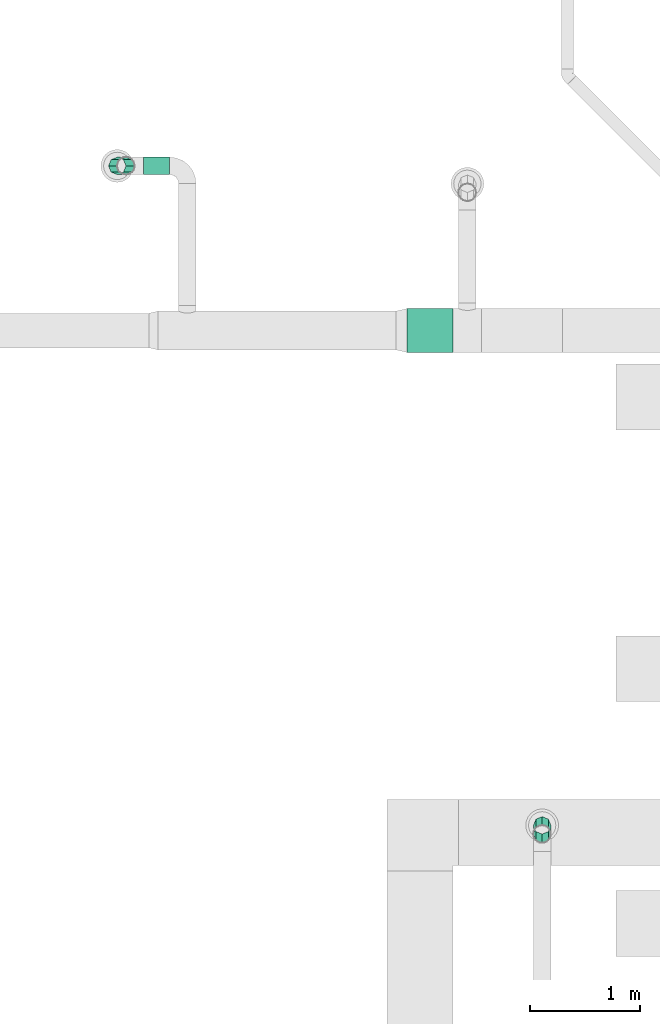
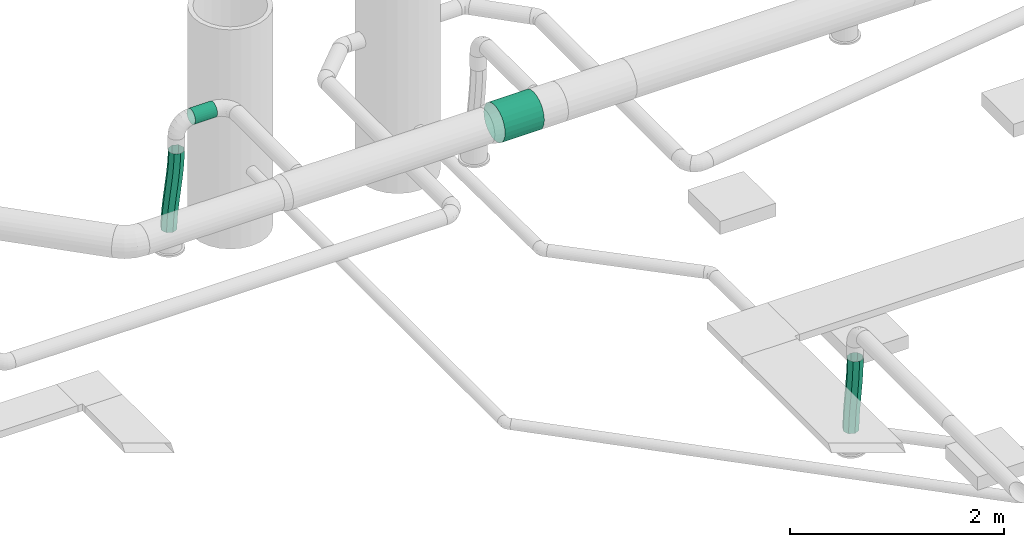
# One storey, part 305 of 374: 4 flow segments.
"""IFC2X3 building model written with IfcOpenShell, lengths in metres."""

from ifc_helpers import new_model, si_unit, direction, origin, place, context, subcontext, project, spatial, open_shell, surface_model, source, transform, mapped, element, save


model = new_model("IFC2X3")

# Units and contexts
model_context = context("Model", 3, precision=1e-05, world=origin(), true_north=direction((-0.4480736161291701, 0.8939966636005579)))
body_context = subcontext(model_context, "Body", "Model", "MODEL_VIEW")
ifc_project = project(units=[si_unit("LENGTHUNIT", "METRE"), si_unit("AREAUNIT", "SQUARE_METRE"), si_unit("VOLUMEUNIT", "CUBIC_METRE"), si_unit("PLANEANGLEUNIT", "RADIAN"), si_unit("THERMODYNAMICTEMPERATUREUNIT", "KELVIN"), si_unit("MASSUNIT", "GRAM", prefix="KILO"), si_unit("TIMEUNIT", "SECOND")], contexts=[model_context])

# Site, building, storey
site_placement = place(None, origin())
site = spatial("IfcSite", under=ifc_project, at=site_placement, Name="Site 1", CompositionType="ELEMENT")
building_placement = place(site_placement, origin())
building = spatial("IfcBuilding", under=site, at=building_placement, Name="Undefined", CompositionType="ELEMENT")
storey_placement = place(building_placement, origin())
storey = spatial("IfcBuildingStorey", under=building, at=storey_placement, Name="Rez de chauss\x8ee", CompositionType="ELEMENT", Elevation=0.0)

# Flow segments
shared_shape_1 = source(origin(), body_context, "Body", "SurfaceModel", [
    surface_model("IfcFaceBasedSurfaceModel", [(0.0942570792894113, 3.552713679e-15, 0.0), (0.05356602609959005, 0.045752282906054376, -3.552713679e-15), (0.0, 0.0, 0.0), (0.038940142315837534, -0.04725143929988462, -1.1507668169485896e-06), (-0.055412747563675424, -0.044041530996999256, 0.0010358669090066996), (-0.017993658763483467, -0.09250640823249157, 0.0010617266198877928), (-0.11243304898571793, -0.08679100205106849, 0.0029113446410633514), (-0.07622094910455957, -0.13616420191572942, 0.002975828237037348), (-0.17075714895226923, -0.12862219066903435, 0.005426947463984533), (-0.13541835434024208, -0.17862411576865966, 0.005528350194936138), (-0.23007333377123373, -0.16991459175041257, 0.008379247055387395), (-0.19526250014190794, -0.22028544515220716, 0.008506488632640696), (-0.2900642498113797, -0.2110550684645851, 0.011560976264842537), (-0.25543001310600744, -0.2615474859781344, 0.01169743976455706), (-0.3504083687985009, -0.2524386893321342, 0.014761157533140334), (-0.31559752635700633, -0.3028095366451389, 0.014888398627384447), (-0.41078047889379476, -0.29446897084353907, 0.017765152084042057), (-0.37544167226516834, -0.3444708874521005, 0.017866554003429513), (-0.4708511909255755, -0.33755763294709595, 0.020354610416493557), (-0.43463908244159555, -0.38693082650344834, 0.02041909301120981), (-0.5302854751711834, -0.3821237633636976, 0.02230734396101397), (-0.4928663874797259, -0.4305886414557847, 0.022333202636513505), (-0.588740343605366, -0.42859216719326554, 0.02339722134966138), (-0.5498002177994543, -0.47584362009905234, 0.02339606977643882), (-0.6458082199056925, -0.4773427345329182, 0.0233948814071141), (-0.6051172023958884, -0.5230950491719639, 0.02339488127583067), (0.02506154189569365, 0.0783427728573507, -0.04329419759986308), (-0.0277792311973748, 0.033211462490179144, -0.04329372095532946), (-0.08256193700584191, -0.010327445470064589, -0.04226904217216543), (-0.13908228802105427, -0.05270067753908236, -0.040409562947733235), (-0.19704465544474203, -0.09427144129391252, -0.03790925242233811), (-0.2561421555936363, -0.13541102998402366, -0.034967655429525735), (-0.3160599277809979, -0.17650115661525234, -0.031789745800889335), (-0.37647720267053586, -0.21793513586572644, -0.028585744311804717), (-0.43706800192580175, -0.26011823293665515, -0.025571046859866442), (-0.4975004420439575, -0.30346731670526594, -0.02296629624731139), (-0.5574346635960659, -0.34840967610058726, -0.020997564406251), (-0.6165195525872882, -0.3953806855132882, -0.01989649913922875), (-0.67431265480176, -0.44475220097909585, -0.019899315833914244), (0.02544116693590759, 0.07868040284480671, -0.1045214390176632), (-0.028124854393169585, 0.03292812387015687, -0.10452143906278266), (-0.08353760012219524, -0.011113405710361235, -0.10348557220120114), (-0.14055790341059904, -0.053862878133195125, -0.10161009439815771), (-0.1988820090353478, -0.09569407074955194, -0.09909449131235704), (-0.25819820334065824, -0.1369864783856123, -0.09614219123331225), (-0.31818913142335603, -0.17812696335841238, -0.09296046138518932), (-0.3785332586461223, -0.21951058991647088, -0.08976027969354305), (-0.43890536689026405, -0.2615408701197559, -0.08675628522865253), (-0.49897606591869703, -0.30462952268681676, -0.08416682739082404), (-0.5584103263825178, -0.34919563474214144, -0.08221409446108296), (-0.6168651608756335, -0.3956640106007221, -0.08112421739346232), (-0.673932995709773, -0.4444145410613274, -0.08112655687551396), (0.054482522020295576, 0.04656739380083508, -0.14781563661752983), (-0.0008344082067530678, -0.000684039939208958, -0.14781678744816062), (-0.05776820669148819, -0.04593900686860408, -0.14675391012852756), (-0.11599549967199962, -0.08959680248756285, -0.14483980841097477), (-0.1751929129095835, -0.13205672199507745, -0.14228728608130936), (-0.23503707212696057, -0.17371806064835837, -0.1393091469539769), (-0.29520460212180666, -0.21498011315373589, -0.13611819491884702), (-0.3553721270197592, -0.25624217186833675, -0.13292723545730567), (-0.41521627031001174, -0.29790352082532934, -0.12994908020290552), (-0.4744136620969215, -0.3403634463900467, -0.12739654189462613), (-0.5326409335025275, -0.38402123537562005, -0.12548243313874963), (-0.5895747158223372, -0.42927617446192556, -0.12441956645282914), (-0.6448916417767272, -0.47652755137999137, -0.12442075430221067), (0.09517357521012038, 0.0008151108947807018, -0.14781563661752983), (0.03810573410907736, -0.04793547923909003, -0.14781793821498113), (-0.020349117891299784, -0.09440388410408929, -0.14672805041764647), (-0.07978339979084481, -0.13897000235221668, -0.14477532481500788), (-0.139854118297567, -0.182058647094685, -0.1421858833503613), (-0.20022623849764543, -0.2240889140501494, -0.13918190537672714), (-0.26057036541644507, -0.2654725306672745, -0.1359817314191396), (-0.3205612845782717, -0.30661301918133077, -0.13279999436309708), (-0.3798774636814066, -0.3479054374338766, -0.12984767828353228), (-0.4382015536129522, -0.3897366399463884, -0.12733205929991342), (-0.4952218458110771, -0.4324861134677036, -0.12545657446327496), (-0.5506345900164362, -0.47652762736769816, -0.12442071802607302), (-0.6042006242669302, -0.5222798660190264, -0.12442075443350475), (0.12367805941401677, -0.03177537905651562, -0.10452143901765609), (0.06588496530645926, -0.08114694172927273, -0.104524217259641), (0.006800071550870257, -0.1281179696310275, -0.10342314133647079), (-0.05313416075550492, -0.17306032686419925, -0.10145441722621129), (-0.1135666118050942, -0.21640939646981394, -0.09884968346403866), (-0.17415741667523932, -0.2585924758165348, -0.09583500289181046), (-0.2345746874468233, -0.30002644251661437, -0.09263100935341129), (-0.2944924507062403, -0.34111657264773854, -0.08945309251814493), (-0.3535899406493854, -0.38225617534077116, -0.08651147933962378), (-0.4115523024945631, -0.42382695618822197, -0.08401115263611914), (-0.468072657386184, -0.4662002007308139, -0.08215166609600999), (-0.5228553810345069, -0.5097391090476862, -0.08112699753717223), (-0.5756961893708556, -0.5548703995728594, -0.0811265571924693), (0.12329843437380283, -0.03211300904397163, -0.04329419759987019), (0.0662305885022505, -0.08086360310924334, -0.043296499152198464), (0.007775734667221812, -0.12733200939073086, -0.042206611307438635), (-0.05165854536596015, -0.1718981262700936, -0.04025388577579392), (-0.11172925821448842, -0.21498676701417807, -0.037664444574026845), (-0.17210136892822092, -0.2570170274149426, -0.0346604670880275), (-0.23244548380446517, -0.2984006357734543, -0.031460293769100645), (-0.29243639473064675, -0.3395411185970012, -0.02827855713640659), (-0.3517525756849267, -0.38083353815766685, -0.025326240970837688), (-0.4100766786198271, -0.42266475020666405, -0.02281062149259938), (-0.46709699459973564, -0.46541424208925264, -0.020935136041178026), (-0.5225097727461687, -0.5094557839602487, -0.019899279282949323), (-0.5760758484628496, -0.5552080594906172, -0.019899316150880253)], [open_shell([[[0, 1, 2]], [[2, 3, 0]], [[3, 2, 4]], [[4, 5, 3]], [[5, 4, 6]], [[6, 7, 5]], [[7, 6, 8]], [[8, 9, 7]], [[9, 8, 10]], [[10, 11, 9]], [[11, 10, 12]], [[12, 13, 11]], [[13, 12, 14]], [[14, 15, 13]], [[15, 14, 16]], [[16, 17, 15]], [[17, 16, 18]], [[18, 19, 17]], [[19, 18, 20]], [[20, 21, 19]], [[21, 20, 22]], [[22, 23, 21]], [[23, 22, 24]], [[24, 25, 23]], [[1, 26, 27]], [[27, 2, 1]], [[2, 27, 28]], [[28, 4, 2]], [[4, 28, 29]], [[29, 6, 4]], [[6, 29, 30]], [[30, 8, 6]], [[8, 30, 31]], [[31, 10, 8]], [[10, 31, 32]], [[32, 12, 10]], [[12, 32, 33]], [[33, 14, 12]], [[14, 33, 34]], [[34, 16, 14]], [[16, 34, 35]], [[35, 18, 16]], [[18, 35, 36]], [[36, 20, 18]], [[20, 36, 37]], [[37, 22, 20]], [[22, 37, 38]], [[38, 24, 22]], [[26, 39, 40]], [[40, 27, 26]], [[27, 40, 41]], [[41, 28, 27]], [[28, 41, 42]], [[42, 29, 28]], [[29, 42, 43]], [[43, 30, 29]], [[30, 43, 44]], [[44, 31, 30]], [[31, 44, 45]], [[45, 32, 31]], [[32, 45, 46]], [[46, 33, 32]], [[33, 46, 47]], [[47, 34, 33]], [[34, 47, 48]], [[48, 35, 34]], [[35, 48, 49]], [[49, 36, 35]], [[36, 49, 50]], [[50, 37, 36]], [[37, 50, 51]], [[51, 38, 37]], [[39, 52, 53]], [[53, 40, 39]], [[40, 53, 54]], [[54, 41, 40]], [[41, 54, 55]], [[55, 42, 41]], [[42, 55, 56]], [[56, 43, 42]], [[43, 56, 57]], [[57, 44, 43]], [[44, 57, 58]], [[58, 45, 44]], [[45, 58, 59]], [[59, 46, 45]], [[46, 59, 60]], [[60, 47, 46]], [[47, 60, 61]], [[61, 48, 47]], [[48, 61, 62]], [[62, 49, 48]], [[49, 62, 63]], [[63, 50, 49]], [[50, 63, 64]], [[64, 51, 50]], [[52, 65, 66]], [[66, 53, 52]], [[53, 66, 67]], [[67, 54, 53]], [[54, 67, 68]], [[68, 55, 54]], [[55, 68, 69]], [[69, 56, 55]], [[56, 69, 70]], [[70, 57, 56]], [[57, 70, 71]], [[71, 58, 57]], [[58, 71, 72]], [[72, 59, 58]], [[59, 72, 73]], [[73, 60, 59]], [[60, 73, 74]], [[74, 61, 60]], [[61, 74, 75]], [[75, 62, 61]], [[62, 75, 76]], [[76, 63, 62]], [[63, 76, 77]], [[77, 64, 63]], [[65, 78, 79]], [[79, 66, 65]], [[66, 79, 80]], [[80, 67, 66]], [[67, 80, 81]], [[81, 68, 67]], [[68, 81, 82]], [[82, 69, 68]], [[69, 82, 83]], [[83, 70, 69]], [[70, 83, 84]], [[84, 71, 70]], [[71, 84, 85]], [[85, 72, 71]], [[72, 85, 86]], [[86, 73, 72]], [[73, 86, 87]], [[87, 74, 73]], [[74, 87, 88]], [[88, 75, 74]], [[75, 88, 89]], [[89, 76, 75]], [[76, 89, 90]], [[90, 77, 76]], [[78, 91, 92]], [[92, 79, 78]], [[79, 92, 93]], [[93, 80, 79]], [[80, 93, 94]], [[94, 81, 80]], [[81, 94, 95]], [[95, 82, 81]], [[82, 95, 96]], [[96, 83, 82]], [[83, 96, 97]], [[97, 84, 83]], [[84, 97, 98]], [[98, 85, 84]], [[85, 98, 99]], [[99, 86, 85]], [[86, 99, 100]], [[100, 87, 86]], [[87, 100, 101]], [[101, 88, 87]], [[88, 101, 102]], [[102, 89, 88]], [[89, 102, 103]], [[103, 90, 89]], [[91, 0, 3]], [[3, 92, 91]], [[92, 3, 5]], [[5, 93, 92]], [[93, 5, 7]], [[7, 94, 93]], [[94, 7, 9]], [[9, 95, 94]], [[95, 9, 11]], [[11, 96, 95]], [[96, 11, 13]], [[13, 97, 96]], [[97, 13, 15]], [[15, 98, 97]], [[98, 15, 17]], [[17, 99, 98]], [[99, 17, 19]], [[19, 100, 99]], [[100, 19, 21]], [[21, 101, 100]], [[101, 21, 23]], [[23, 102, 101]], [[102, 23, 25]], [[25, 103, 102]]])]),
])
flow_segment_1_placement = place(storey_placement, origin())
element("IfcFlowSegment", 1, at=flow_segment_1_placement, inside=storey, Name="Tube flexible", ObjectType="Tube flexible", context=body_context, shape_type="MappedRepresentation", body=[
    mapped(shared_shape_1, transform((34.91942732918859, 15.986444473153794, 3.4095708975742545), x_axis=(-0.2485909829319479, -0.6163532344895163, 0.7472022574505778), y_axis=(0.29104621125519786, 0.6882384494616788, 0.6645449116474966), z_axis=(-0.9238477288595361, 0.38267025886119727, 0.008297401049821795))),
])
shared_shape_2 = source(origin(), body_context, "Body", "SurfaceModel", [
    surface_model("IfcFaceBasedSurfaceModel", [(0.09295191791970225, -3.552713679e-15, 7.105427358e-15), (0.05300383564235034, 0.04640241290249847, 3.552713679e-15), (0.0, 0.0, 0.0), (0.04066677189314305, -0.0457738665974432, 1.1506127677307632e-06), (-0.05254234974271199, -0.04737458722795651, 0.0025003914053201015), (-0.011276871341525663, -0.09260945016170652, 0.0024745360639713), (-0.10482020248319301, -0.09563307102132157, 0.007027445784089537), (-0.0630953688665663, -0.1404445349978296, 0.006962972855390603), (-0.1569737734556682, -0.14463318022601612, 0.013099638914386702), (-0.11492478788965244, -0.18914054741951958, 0.01299825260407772), (-0.2091441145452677, -0.1942281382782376, 0.020225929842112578), (-0.16690237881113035, -0.23855254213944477, 0.02009870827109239), (-0.2614751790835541, -0.24426860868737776, 0.027906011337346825), (-0.21916949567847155, -0.2885319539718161, 0.027769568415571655), (-0.31411498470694, -0.29460388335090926, 0.03563062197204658), (-0.27187324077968, -0.33892827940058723, 0.03550339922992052), (-0.3672159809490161, -0.34508226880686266, 0.04288167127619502), (-0.32516698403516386, -0.3895896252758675, 0.04278028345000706), (-0.4209346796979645, -0.39555069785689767, 0.04913211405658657), (-0.3792098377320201, -0.4403621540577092, 0.04906764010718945), (-0.4754304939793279, -0.4458535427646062, 0.053845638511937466), (-0.43416501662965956, -0.4910884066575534, 0.05381978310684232), (-0.5308636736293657, -0.4958306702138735, 0.05647641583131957), (-0.49019691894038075, -0.5416045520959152, 0.0564775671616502), (-0.5873376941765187, -0.545267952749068, 0.05647082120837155), (-0.5473896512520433, -0.5916703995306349, 0.05647082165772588), (0.025413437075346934, 0.07977962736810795, -0.043287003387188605), (-0.029325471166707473, 0.031859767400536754, -0.04328978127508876), (-0.08331322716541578, -0.016816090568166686, -0.04072419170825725), (-0.13670006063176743, -0.06609674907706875, -0.03610390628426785), (-0.18963620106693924, -0.11583101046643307, -0.029942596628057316), (-0.24227187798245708, -0.16586767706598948, -0.022753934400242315), (-0.2947573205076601, -0.21605555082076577, -0.015051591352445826), (-0.34724275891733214, -0.26624343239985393, -0.007349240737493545), (-0.39987842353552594, -0.316280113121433, -0.00016056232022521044), (-0.4528145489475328, -0.3660143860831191, 0.0060007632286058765), (-0.5062013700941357, -0.41529504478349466, 0.010621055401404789), (-0.5601891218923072, -0.46397088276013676, 0.013186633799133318), (-0.6149280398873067, -0.5118906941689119, 0.013183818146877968), (0.02634280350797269, 0.08057972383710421, -0.10450407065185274), (-0.03013117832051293, 0.031142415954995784, -0.10450962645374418), (-0.08556434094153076, -0.018834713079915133, -0.10187883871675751), (-0.1400601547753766, -0.06913754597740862, -0.09716532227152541), (-0.1937788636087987, -0.11960595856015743, -0.0909148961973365), (-0.2468798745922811, -0.17008433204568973, -0.08366386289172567), (-0.2995196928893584, -0.2204196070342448, -0.07593925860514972), (-0.351850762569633, -0.27046009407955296, -0.06825916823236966), (-0.40402109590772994, -0.3200550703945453, -0.061132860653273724), (-0.4561746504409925, -0.36905518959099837, -0.05506065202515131), (-0.5084524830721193, -0.4173136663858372, -0.05053359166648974), (-0.560994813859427, -0.46468822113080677, -0.04803321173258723), (-0.6139986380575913, -0.5110905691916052, -0.04803324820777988), (0.05524752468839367, 0.048334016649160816, -0.14779107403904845), (-0.0019451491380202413, -0.0017318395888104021, -0.14779778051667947), (-0.057977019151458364, -0.052247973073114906, -0.1451399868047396), (-0.11293218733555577, -0.10297420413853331, -0.14038785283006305), (-0.16697504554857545, -0.15374671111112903, -0.1341005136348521), (-0.22026880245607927, -0.20440804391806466, -0.12682364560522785), (-0.2729725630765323, -0.2548043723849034, -0.11908982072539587), (-0.3252396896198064, -0.3047838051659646, -0.11141895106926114), (-0.37721727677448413, -0.35419582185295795, -0.10431847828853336), (-0.429046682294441, -0.4028918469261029, -0.09828318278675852), (-0.48086516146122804, -0.4507269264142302, -0.09379473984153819), (-0.5328087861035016, -0.4975624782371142, -0.09132136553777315), (-0.5850939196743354, -0.543336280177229, -0.09132025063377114), (0.09519560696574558, 0.001931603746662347, -0.14779107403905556), (0.0387216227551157, -0.04750570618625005, -0.1477966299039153), (-0.016711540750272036, -0.09748283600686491, -0.14516584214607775), (-0.07120735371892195, -0.14778566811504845, -0.14045232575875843), (-0.12492605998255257, -0.1982540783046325, -0.13420189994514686), (-0.17802706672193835, -0.2487324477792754, -0.12695086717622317), (-0.23066687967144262, -0.2990677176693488, -0.11922626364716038), (-0.2829979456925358, -0.3491082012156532, -0.11154617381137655), (-0.3351682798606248, -0.39870317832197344, -0.10441986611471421), (-0.3873218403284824, -0.4477033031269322, -0.09834765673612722), (-0.4395996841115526, -0.49596179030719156, -0.09382059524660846), (-0.4921420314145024, -0.5433363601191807, -0.09132021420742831), (-0.5451458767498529, -0.5897387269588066, -0.0913202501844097), (0.12278600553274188, -0.03144561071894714, -0.1045040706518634), (0.06804709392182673, -0.07936547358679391, -0.10450684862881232), (0.01405933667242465, -0.12804133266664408, -0.1019412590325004), (-0.03932749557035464, -0.17732199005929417, -0.0973209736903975), (-0.09226363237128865, -0.2270562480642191, -0.0911596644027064), (-0.14489930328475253, -0.2770929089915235, -0.08397100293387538), (-0.1973847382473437, -0.32728077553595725, -0.07626866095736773), (-0.24987017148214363, -0.377468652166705, -0.06856631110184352), (-0.3025058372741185, -0.42750533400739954, -0.06137763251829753), (-0.3554419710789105, -0.4772396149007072, -0.05521630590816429), (-0.4088288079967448, -0.526520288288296, -0.05059601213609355), (-0.4628165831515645, -0.5751961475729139, -0.04803043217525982), (-0.5175555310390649, -0.6231159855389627, -0.048033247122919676), (0.12185663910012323, -0.03224570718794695, -0.04328700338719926), (0.06885280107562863, -0.07864812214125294, -0.04328700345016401), (0.01631045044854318, -0.1260227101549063, -0.040786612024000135), (-0.03596740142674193, -0.17428119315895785, -0.03625955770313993), (-0.08812096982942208, -0.22328129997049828, -0.03018736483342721), (-0.1402913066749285, -0.27287625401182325, -0.02306107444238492), (-0.1926223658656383, -0.3229167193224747, -0.01538099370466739), (-0.24526216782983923, -0.37325199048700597, -0.007656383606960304), (-0.29836316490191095, -0.4237303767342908, -0.00040533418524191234), (-0.3520818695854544, -0.4741988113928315, 0.005845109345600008), (-0.40657769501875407, -0.5245016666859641, 0.010558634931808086), (-0.46201089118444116, -0.574478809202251, 0.013189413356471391), (-0.5184849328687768, -0.6239161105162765, 0.013183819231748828)], [open_shell([[[0, 1, 2]], [[2, 3, 0]], [[3, 2, 4]], [[4, 5, 3]], [[5, 4, 6]], [[6, 7, 5]], [[7, 6, 8]], [[8, 9, 7]], [[9, 8, 10]], [[10, 11, 9]], [[11, 10, 12]], [[12, 13, 11]], [[13, 12, 14]], [[14, 15, 13]], [[15, 14, 16]], [[16, 17, 15]], [[17, 16, 18]], [[18, 19, 17]], [[19, 18, 20]], [[20, 21, 19]], [[21, 20, 22]], [[22, 23, 21]], [[23, 22, 24]], [[24, 25, 23]], [[1, 26, 27]], [[27, 2, 1]], [[2, 27, 28]], [[28, 4, 2]], [[4, 28, 29]], [[29, 6, 4]], [[6, 29, 30]], [[30, 8, 6]], [[8, 30, 31]], [[31, 10, 8]], [[10, 31, 32]], [[32, 12, 10]], [[12, 32, 33]], [[33, 14, 12]], [[14, 33, 34]], [[34, 16, 14]], [[16, 34, 35]], [[35, 18, 16]], [[18, 35, 36]], [[36, 20, 18]], [[20, 36, 37]], [[37, 22, 20]], [[22, 37, 38]], [[38, 24, 22]], [[26, 39, 40]], [[40, 27, 26]], [[27, 40, 41]], [[41, 28, 27]], [[28, 41, 42]], [[42, 29, 28]], [[29, 42, 43]], [[43, 30, 29]], [[30, 43, 44]], [[44, 31, 30]], [[31, 44, 45]], [[45, 32, 31]], [[32, 45, 46]], [[46, 33, 32]], [[33, 46, 47]], [[47, 34, 33]], [[34, 47, 48]], [[48, 35, 34]], [[35, 48, 49]], [[49, 36, 35]], [[36, 49, 50]], [[50, 37, 36]], [[37, 50, 51]], [[51, 38, 37]], [[39, 52, 53]], [[53, 40, 39]], [[40, 53, 54]], [[54, 41, 40]], [[41, 54, 55]], [[55, 42, 41]], [[42, 55, 56]], [[56, 43, 42]], [[43, 56, 57]], [[57, 44, 43]], [[44, 57, 58]], [[58, 45, 44]], [[45, 58, 59]], [[59, 46, 45]], [[46, 59, 60]], [[60, 47, 46]], [[47, 60, 61]], [[61, 48, 47]], [[48, 61, 62]], [[62, 49, 48]], [[49, 62, 63]], [[63, 50, 49]], [[50, 63, 64]], [[64, 51, 50]], [[52, 65, 66]], [[66, 53, 52]], [[53, 66, 67]], [[67, 54, 53]], [[54, 67, 68]], [[68, 55, 54]], [[55, 68, 69]], [[69, 56, 55]], [[56, 69, 70]], [[70, 57, 56]], [[57, 70, 71]], [[71, 58, 57]], [[58, 71, 72]], [[72, 59, 58]], [[59, 72, 73]], [[73, 60, 59]], [[60, 73, 74]], [[74, 61, 60]], [[61, 74, 75]], [[75, 62, 61]], [[62, 75, 76]], [[76, 63, 62]], [[63, 76, 77]], [[77, 64, 63]], [[65, 78, 79]], [[79, 66, 65]], [[66, 79, 80]], [[80, 67, 66]], [[67, 80, 81]], [[81, 68, 67]], [[68, 81, 82]], [[82, 69, 68]], [[69, 82, 83]], [[83, 70, 69]], [[70, 83, 84]], [[84, 71, 70]], [[71, 84, 85]], [[85, 72, 71]], [[72, 85, 86]], [[86, 73, 72]], [[73, 86, 87]], [[87, 74, 73]], [[74, 87, 88]], [[88, 75, 74]], [[75, 88, 89]], [[89, 76, 75]], [[76, 89, 90]], [[90, 77, 76]], [[78, 91, 92]], [[92, 79, 78]], [[79, 92, 93]], [[93, 80, 79]], [[80, 93, 94]], [[94, 81, 80]], [[81, 94, 95]], [[95, 82, 81]], [[82, 95, 96]], [[96, 83, 82]], [[83, 96, 97]], [[97, 84, 83]], [[84, 97, 98]], [[98, 85, 84]], [[85, 98, 99]], [[99, 86, 85]], [[86, 99, 100]], [[100, 87, 86]], [[87, 100, 101]], [[101, 88, 87]], [[88, 101, 102]], [[102, 89, 88]], [[89, 102, 103]], [[103, 90, 89]], [[91, 0, 3]], [[3, 92, 91]], [[92, 3, 5]], [[5, 93, 92]], [[93, 5, 7]], [[7, 94, 93]], [[94, 7, 9]], [[9, 95, 94]], [[95, 9, 11]], [[11, 96, 95]], [[96, 11, 13]], [[13, 97, 96]], [[97, 13, 15]], [[15, 98, 97]], [[98, 15, 17]], [[17, 99, 98]], [[99, 17, 19]], [[19, 100, 99]], [[100, 19, 21]], [[21, 101, 100]], [[101, 21, 23]], [[23, 102, 101]], [[102, 23, 25]], [[25, 103, 102]]])]),
])
flow_segment_2_placement = place(storey_placement, origin())
element("IfcFlowSegment", 2, at=flow_segment_2_placement, inside=storey, Name="Tube flexible", ObjectType="Tube flexible", context=body_context, shape_type="MappedRepresentation", body=[
    mapped(shared_shape_2, transform((31.117641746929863, 22.086564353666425, 3.4095708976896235), x_axis=(-0.23565245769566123, -0.6085785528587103, 0.7576939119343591), y_axis=(0.3020876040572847, 0.695157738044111, 0.652302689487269), z_axis=(-0.9236942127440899, 0.3826066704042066, 0.020028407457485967))),
])
shared_shape_3 = source(origin(), body_context, "Body", "SurfaceModel", [
    surface_model("IfcFaceBasedSurfaceModel", [(0.0, 0.05221047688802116, -8.8817842e-16), (0.0, 0.0, 0.0), (0.4237829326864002, -3.552713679e-15, 8.8817842e-16), (0.4237829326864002, 0.05221047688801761, 8.8817842e-16), (0.0, -0.05043144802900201, -0.013513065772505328), (0.4237829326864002, -0.05043144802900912, -0.013513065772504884), (0.0, -0.09564704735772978, -0.0396183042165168), (0.4237829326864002, -0.09564704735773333, -0.03961830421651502), (0.0, -0.1325654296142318, -0.07653668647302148), (0.4237829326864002, -0.1325654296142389, -0.07653668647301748), (0.0, -0.15867066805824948, -0.12175228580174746), (0.4237829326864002, -0.15867066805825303, -0.12175228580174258), (0.0, -0.17218373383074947, -0.17218373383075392), (0.4237829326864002, -0.17218373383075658, -0.1721837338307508), (0.0, -0.17218373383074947, -0.22439421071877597), (0.4237829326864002, -0.17218373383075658, -0.22439421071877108), (0.0, -0.15867066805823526, -0.2748256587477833), (0.4237829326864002, -0.15867066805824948, -0.2748256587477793), (0.0, -0.1325654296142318, -0.3200412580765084), (0.4237829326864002, -0.13256542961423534, -0.32004125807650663), (0.0, -0.09564704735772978, -0.35695964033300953), (0.4237829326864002, -0.09564704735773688, -0.35695964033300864), (0.0, -0.050431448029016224, -0.3830648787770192), (0.4237829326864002, -0.05043144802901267, -0.3830648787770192), (0.0, 0.0, -0.39657794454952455), (0.4237829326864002, -3.552713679e-15, -0.39657794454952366), (0.0, 0.05221047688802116, -0.3965779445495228), (0.4237829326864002, 0.05221047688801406, -0.3965779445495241), (0.0, 0.10264192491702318, -0.38306487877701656), (0.4237829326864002, 0.10264192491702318, -0.3830648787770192), (0.0, 0.14785752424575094, -0.356959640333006), (0.4237829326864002, 0.14785752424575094, -0.3569596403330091), (0.0, 0.18477590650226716, -0.32004125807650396), (0.4237829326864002, 0.1847759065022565, -0.3200412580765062), (0.0, 0.21088114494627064, -0.2748256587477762), (0.4237829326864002, 0.21088114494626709, -0.27482565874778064), (0.0, 0.22439421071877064, -0.22439421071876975), (0.4237829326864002, 0.22439421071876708, -0.2243942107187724), (0.0, 0.22439421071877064, -0.1721837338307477), (0.4237829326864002, 0.22439421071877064, -0.17218373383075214), (0.0, 0.21088114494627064, -0.12175228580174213), (0.4237829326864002, 0.21088114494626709, -0.12175228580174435), (0.0, 0.18477590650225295, -0.07653668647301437), (0.4237829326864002, 0.1847759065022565, -0.07653668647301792), (0.0, 0.14785752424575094, -0.03961830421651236), (0.4237829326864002, 0.14785752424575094, -0.039618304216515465), (0.0, 0.10264192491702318, -0.013513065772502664), (0.4237829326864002, 0.10264192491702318, -0.013513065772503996)], [open_shell([[[0, 1, 2, 3]], [[1, 4, 5, 2]], [[4, 6, 7, 5]], [[6, 8, 9, 7]], [[8, 10, 11, 9]], [[10, 12, 13, 11]], [[12, 14, 15, 13]], [[14, 16, 17, 15]], [[16, 18, 19, 17]], [[18, 20, 21, 19]], [[20, 22, 23, 21]], [[22, 24, 25, 23]], [[24, 26, 27, 25]], [[26, 28, 29, 27]], [[28, 30, 31, 29]], [[30, 32, 33, 31]], [[32, 34, 35, 33]], [[34, 36, 37, 35]], [[36, 38, 39, 37]], [[38, 40, 41, 39]], [[40, 42, 43, 41]], [[42, 44, 45, 43]], [[44, 46, 47, 45]], [[46, 0, 3, 47]]])]),
])
flow_segment_3_placement = place(storey_placement, origin())
element("IfcFlowSegment", 3, at=flow_segment_3_placement, inside=storey, Name="Tube", ObjectType="Tube", context=body_context, shape_type="MappedRepresentation", body=[
    mapped(shared_shape_3, transform((33.739506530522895, 20.475124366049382, 3.9931851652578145), x_axis=(1.0, 0.0, 0.0), y_axis=(0.0, 0.9914448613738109, 0.1305261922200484), z_axis=(0.0, -0.1305261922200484, 0.9914448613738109))),
])
shared_shape_4 = source(origin(), body_context, "Body", "SurfaceModel", [
    surface_model("IfcFaceBasedSurfaceModel", [(0.0, 0.020884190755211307, 0.0), (0.0, 0.0, 0.0), (0.23916888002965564, 0.0, 0.0), (0.23916888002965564, 0.020884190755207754, 0.0), (0.0, -0.020172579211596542, -0.005405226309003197), (0.23916888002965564, -0.020172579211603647, -0.005405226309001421), (0.0, -0.03825881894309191, -0.015847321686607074), (0.23916888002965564, -0.03825881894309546, -0.015847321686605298), (0.0, -0.05302617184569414, -0.0306146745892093), (0.23916888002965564, -0.05302617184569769, -0.030614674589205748), (0.0, -0.06346826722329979, -0.04870091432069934), (0.23916888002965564, -0.06346826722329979, -0.048700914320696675), (0.0, -0.06887349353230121, -0.06887349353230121), (0.23916888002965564, -0.06887349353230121, -0.06887349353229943), (0.0, -0.06887349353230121, -0.08975768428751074), (0.23916888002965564, -0.06887349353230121, -0.08975768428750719), (0.0, -0.06346826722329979, -0.10993026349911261), (0.23916888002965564, -0.06346826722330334, -0.10993026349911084), (0.0, -0.05302617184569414, -0.12801650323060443), (0.23916888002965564, -0.05302617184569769, -0.12801650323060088), (0.0, -0.038258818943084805, -0.14278385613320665), (0.23916888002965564, -0.038258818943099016, -0.1427838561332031), (0.0, -0.020172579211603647, -0.15322595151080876), (0.23916888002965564, -0.0201725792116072, -0.15322595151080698), (0.0, 7.105427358e-15, -0.15863117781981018), (0.23916888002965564, -3.552713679e-15, -0.1586311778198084), (0.0, 0.020884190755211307, -0.15863117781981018), (0.23916888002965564, 0.0208841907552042, -0.15863117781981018), (0.0, 0.04105676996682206, -0.15322595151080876), (0.23916888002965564, 0.041056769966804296, -0.15322595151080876), (0.0, 0.05914300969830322, -0.1427838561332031), (0.23916888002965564, 0.05914300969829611, -0.14278385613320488), (0.0, 0.07391036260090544, -0.12801650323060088), (0.23916888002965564, 0.07391036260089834, -0.12801650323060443), (0.0, 0.0843524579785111, -0.10993026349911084), (0.23916888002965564, 0.08435245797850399, -0.1099302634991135), (0.0, 0.08975768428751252, -0.08975768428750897), (0.23916888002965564, 0.08975768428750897, -0.08975768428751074), (0.0, 0.08975768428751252, -0.06887349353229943), (0.23916888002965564, 0.08975768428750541, -0.06887349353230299), (0.0, 0.0843524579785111, -0.048700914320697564), (0.23916888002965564, 0.08435245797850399, -0.04870091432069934), (0.0, 0.07391036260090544, -0.030614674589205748), (0.23916888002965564, 0.07391036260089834, -0.030614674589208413), (0.0, 0.05914300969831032, -0.015847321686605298), (0.23916888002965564, 0.059143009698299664, -0.015847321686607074), (0.0, 0.04105676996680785, -0.005405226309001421), (0.23916888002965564, 0.0410567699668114, -0.005405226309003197)], [open_shell([[[0, 1, 2, 3]], [[1, 4, 5, 2]], [[4, 6, 7, 5]], [[6, 8, 9, 7]], [[8, 10, 11, 9]], [[10, 12, 13, 11]], [[12, 14, 15, 13]], [[14, 16, 17, 15]], [[16, 18, 19, 17]], [[18, 20, 21, 19]], [[20, 22, 23, 21]], [[22, 24, 25, 23]], [[24, 26, 27, 25]], [[26, 28, 29, 27]], [[28, 30, 31, 29]], [[30, 32, 33, 31]], [[32, 34, 35, 33]], [[34, 36, 37, 35]], [[36, 38, 39, 37]], [[38, 40, 41, 39]], [[40, 42, 43, 41]], [[42, 44, 45, 43]], [[44, 46, 47, 45]], [[46, 0, 3, 47]]])]),
])
flow_segment_4_placement = place(storey_placement, origin())
element("IfcFlowSegment", 4, at=flow_segment_4_placement, inside=storey, Name="Tube", ObjectType="Tube", context=body_context, shape_type="MappedRepresentation", body=[
    mapped(shared_shape_4, transform((31.57490627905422, 22.009290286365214, 3.7227259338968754), x_axis=(-1.0, 0.0, 0.0), y_axis=(0.0, 0.9914448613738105, -0.13052619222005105), z_axis=(9.56658874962e-13, -0.13052619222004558, -0.9914448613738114))),
])

save(model, "model.ifc")
